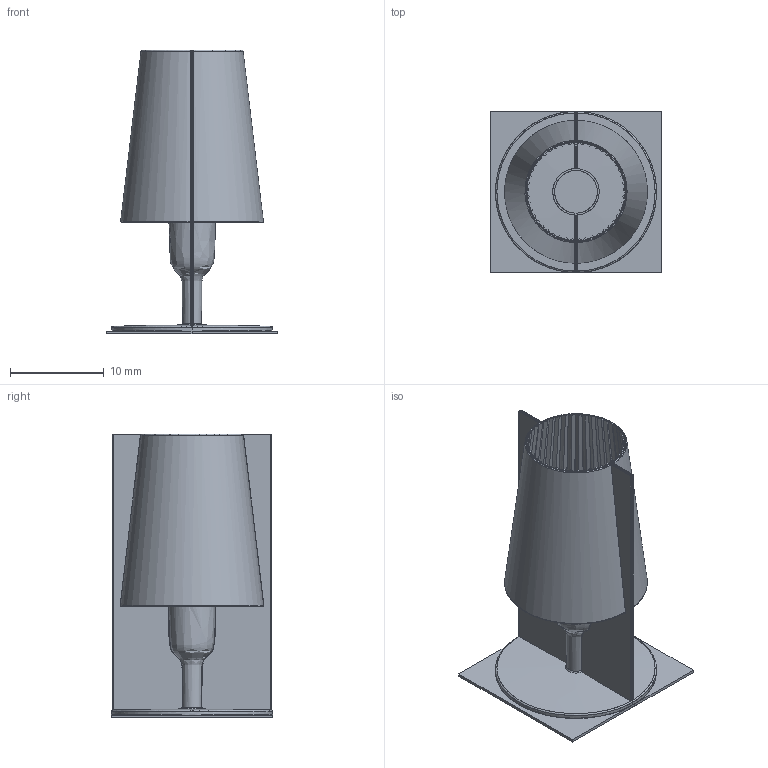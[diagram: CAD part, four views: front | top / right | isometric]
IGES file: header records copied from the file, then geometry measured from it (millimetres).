
Global section: file name: D:\3ddFactory\3D_Kartell\Ex-novo_3dd\9050\Take_3d_Ferruccio Laviani_Kartell.igs; native system: Rhinoceros ( Mar 10 2014 ); preprocessor: Trout Lake IGES 012 Mar 10 2014; date: 180213.120225; units: millimetre
Bounding box: 18.2 x 17.2 x 30.3 mm (x, y, z)
Surface area: 4700.1 mm2 (no closed solid volume)
Topology: 0 solids, 0 shells, 433 faces, 1928 edges, 1828 vertices
Faces by surface type: bspline 433
